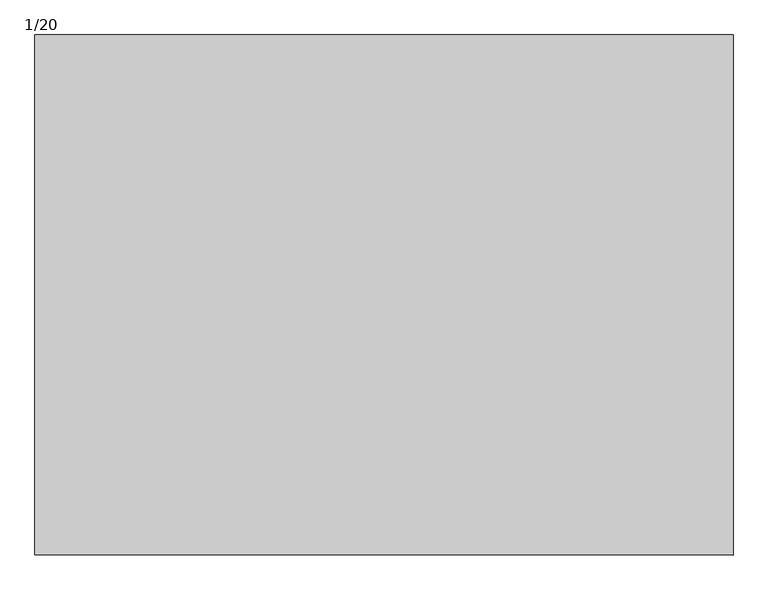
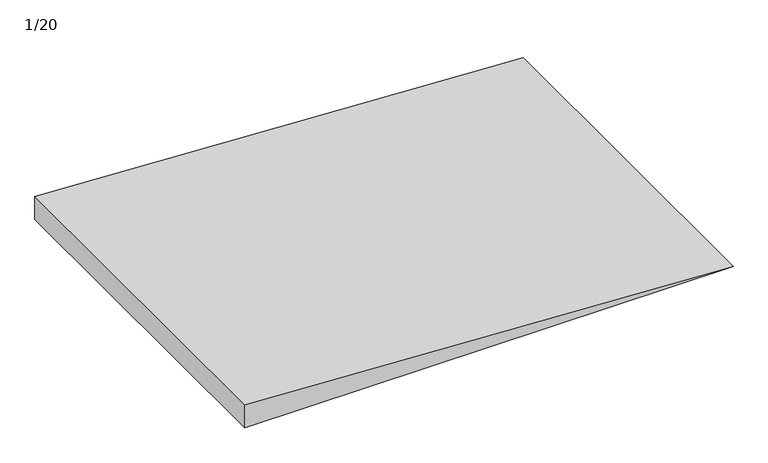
"""IFC4 building model written with IfcOpenShell, lengths in millimetres: ramp geometry, 1/20."""

import ifcopenshell
import ifcopenshell.guid

model = None  # the IFC model being written
_history = None  # IfcOwnerHistory: only IFC2X3 demands one
_inside = {}  # id of a spatial element -> (the spatial element, [elements in it])
_under = {}  # id of a project, library or spatial element -> (it, [spatial elements below it])
_declared = {}  # id of a project -> (the project, [libraries it declares])
_typed = {}  # id of a type object -> (the type object, [elements of that type])
_made_of = {}  # id of a material, layer set ... -> (it, [elements and type objects made of it])


def new_model(schema):
    """Start an empty IFC model of exactly this schema.

    Asked for "IFC4X3", IfcOpenShell would pick the latest addendum, in which some entities
    have other attributes; the version numbers below select the first issue.
    IFC2X3 requires an IfcOwnerHistory on every rooted entity: one is made here for all.
    """
    global model, _history
    if schema == "IFC4X3":
        model = ifcopenshell.file(schema_version=(4, 3, 0, 0))
    else:
        model = ifcopenshell.file(schema=schema)
    _inside.clear()
    _under.clear()
    _declared.clear()
    _typed.clear()
    _made_of.clear()
    _history = None
    if model.schema == "IFC2X3":
        org = make("IfcOrganization", Name="unknown")
        user = make(
            "IfcPersonAndOrganization",
            ThePerson=make("IfcPerson", FamilyName="unknown"),
            TheOrganization=org,
        )
        app = make(
            "IfcApplication",
            ApplicationDeveloper=org,
            Version="unknown",
            ApplicationFullName="unknown",
            ApplicationIdentifier="unknown",
        )
        _history = make(
            "IfcOwnerHistory",
            OwningUser=user,
            OwningApplication=app,
            ChangeAction="ADDED",
            CreationDate=0,
        )
    return model


def make(cls, **values):
    """One entity of the class cls with the attributes given. An attribute that is None is left unset."""
    return model.create_entity(
        cls, **{name: value for name, value in values.items() if value is not None}
    )


def rooted(cls, **values):
    """An entity with a GlobalId (a new one), such as an element, a storey or a relation."""
    return make(cls, GlobalId=ifcopenshell.guid.new(), OwnerHistory=_history, **values)


def si_unit(unit_type, name, prefix=None):
    """IfcSIUnit, for example si_unit("LENGTHUNIT", "METRE", prefix="MILLI")."""
    return make("IfcSIUnit", UnitType=unit_type, Prefix=prefix, Name=name)


def assignment(units):
    """IfcUnitAssignment: the units of a project."""
    return None if units is None else make("IfcUnitAssignment", Units=units)


def point(xyz):
    """IfcCartesianPoint."""
    return None if xyz is None else make("IfcCartesianPoint", Coordinates=xyz)


def direction(xyz):
    """IfcDirection."""
    return None if xyz is None else make("IfcDirection", DirectionRatios=xyz)


def frame(location, z_axis=None, x_axis=None):
    """IfcAxis2Placement3D, a coordinate frame: its origin and axes. An axis left out is left unset."""
    return make(
        "IfcAxis2Placement3D",
        Location=point(location),
        Axis=direction(z_axis),
        RefDirection=direction(x_axis),
    )


def origin():
    """The frame at (0, 0, 0) with its axes left unset."""
    return frame((0.0, 0.0, 0.0))


def place(relative_to, where):
    """IfcLocalPlacement: puts the frame where relative to a parent placement (None: the world)."""
    return make(
        "IfcLocalPlacement", PlacementRelTo=relative_to, RelativePlacement=where
    )


def context(
    kind, dimensions, precision=None, world=None, true_north=None, identifier=None
):
    """IfcGeometricRepresentationContext, for example the 3D "Model" context."""
    return make(
        "IfcGeometricRepresentationContext",
        ContextIdentifier=identifier,
        ContextType=kind,
        CoordinateSpaceDimension=dimensions,
        Precision=precision,
        WorldCoordinateSystem=world,
        TrueNorth=true_north,
    )


def project(units=None, contexts=None):
    """IfcProject with its units and contexts."""
    return rooted(
        "IfcProject",
        Name="project",
        RepresentationContexts=contexts,
        UnitsInContext=assignment(units),
    )


def spatial(cls, under=None, at=None, **own):
    """A site, building, storey or space (cls), placed at a placement, below another one or the project."""
    s = rooted(cls, ObjectPlacement=at, **own)
    if under is not None:
        _under.setdefault(under.id(), (under, []))[1].append(s)
    return s


def polyline(points):
    """IfcPolyline through the points."""
    return make("IfcPolyline", Points=[point(p) for p in points])


def outline(outer, holes=None, kind="AREA"):
    """IfcArbitraryClosedProfileDef: a profile drawn as a closed curve; with holes, ...WithVoids."""
    if holes is None:
        return make("IfcArbitraryClosedProfileDef", ProfileType=kind, OuterCurve=outer)
    return make(
        "IfcArbitraryProfileDefWithVoids",
        ProfileType=kind,
        OuterCurve=outer,
        InnerCurves=holes,
    )


def extrude(swept, where, along, depth):
    """IfcExtrudedAreaSolid: the profile swept, set in the frame where, extruded along a direction by depth."""
    return make(
        "IfcExtrudedAreaSolid",
        SweptArea=swept,
        Position=where,
        ExtrudedDirection=direction(along),
        Depth=depth,
    )


def shape(context_of_items, identifier, shape_type, items):
    """IfcShapeRepresentation: the items that make up one representation, for example the "Body"."""
    return make(
        "IfcShapeRepresentation",
        ContextOfItems=context_of_items,
        RepresentationIdentifier=identifier,
        RepresentationType=shape_type,
        Items=items,
    )


def source(mapping_origin, context_of_items, identifier, shape_type, items):
    """IfcRepresentationMap: a shape defined once, which mapped items show again and again."""
    return make(
        "IfcRepresentationMap",
        MappingOrigin=mapping_origin,
        MappedRepresentation=shape(context_of_items, identifier, shape_type, items),
    )


def transform(
    local_origin,
    x_axis=None,
    y_axis=None,
    z_axis=None,
    scale=None,
    scale2=None,
    scale3=None,
    uniform=True,
):
    """IfcCartesianTransformationOperator3D, or its non-uniform kind. x_axis, y_axis, z_axis: its Axis1, 2, 3."""
    if uniform:
        return make(
            "IfcCartesianTransformationOperator3D",
            Axis1=direction(x_axis),
            Axis2=direction(y_axis),
            LocalOrigin=point(local_origin),
            Scale=scale,
            Axis3=direction(z_axis),
        )
    return make(
        "IfcCartesianTransformationOperator3DnonUniform",
        Axis1=direction(x_axis),
        Axis2=direction(y_axis),
        LocalOrigin=point(local_origin),
        Scale=scale,
        Axis3=direction(z_axis),
        Scale2=scale2,
        Scale3=scale3,
    )


def mapped(mapping_source, mapping_target):
    """IfcMappedItem: shows the shape of a source again, moved by a transform."""
    return make(
        "IfcMappedItem", MappingSource=mapping_source, MappingTarget=mapping_target
    )


def made_of(thing, what):
    """Note that an element or type object is made of a material, layer set ...; save() writes the relation."""
    if what is not None:
        _made_of.setdefault(what.id(), (what, []))[1].append(thing)
    return thing


def element(
    cls,
    number,
    at=None,
    inside=None,
    cuts=None,
    type_object=None,
    material=None,
    context=None,
    identifier="Body",
    shape_type=None,
    held_by="IfcProductDefinitionShape",
    body=None,
    shapes=None,
    **own,
):
    """One element of the class cls, such as IfcWall. Its Tag is "e" and its number.

    at: its placement. inside: the storey or other place that contains it. cuts: it is an
    opening in that element (IfcRelVoidsElement). A single representation is given by context,
    identifier, shape_type and body (its items); several are given by shapes. held_by: the class
    of the entity that holds the representations. save() writes the other relations.
    """
    e = rooted(cls, Tag="e%d" % number, ObjectPlacement=at, **own)
    if body is not None:
        shapes = [shape(context, identifier, shape_type, body)]
    if shapes is not None:
        e.Representation = make(held_by, Representations=shapes)
    if inside is not None:
        _inside.setdefault(inside.id(), (inside, []))[1].append(e)
    if cuts is not None:
        rooted(
            "IfcRelVoidsElement", RelatingBuildingElement=cuts, RelatedOpeningElement=e
        )
    if type_object is not None:
        _typed.setdefault(type_object.id(), (type_object, []))[1].append(e)
    return made_of(e, material)


def aggregate(whole, parts):
    """IfcRelAggregates: a whole, such as a stair, and the parts it consists of."""
    return rooted("IfcRelAggregates", RelatingObject=whole, RelatedObjects=parts)


def save(model, path):
    """Write the relations noted so far, then the file.

    IfcRelAggregates (storeys below a building ...), IfcRelContainedInSpatialStructure (elements
    in a storey), IfcRelDefinesByType, IfcRelAssociatesMaterial and IfcRelDeclares: one each for
    every whole, place, type object, material and project.
    """
    for whole, parts in _under.values():
        aggregate(whole, parts)
    for where, things in _inside.values():
        rooted(
            "IfcRelContainedInSpatialStructure",
            RelatedElements=things,
            RelatingStructure=where,
        )
    for kind, things in _typed.values():
        rooted("IfcRelDefinesByType", RelatedObjects=things, RelatingType=kind)
    for what, things in _made_of.values():
        rooted("IfcRelAssociatesMaterial", RelatedObjects=things, RelatingMaterial=what)
    for by, libraries in _declared.values():
        rooted("IfcRelDeclares", RelatingContext=by, RelatedDefinitions=libraries)
    model.write(path)


def ramp_1_20_a26907a8(model_context):
    return source(origin(), model_context, "Body", "SweptSolid", [
        extrude(outline(polyline([(-300.0, 4930.0), (-189.25, 2715.0), (-300.0, 2715.0), (-300.0, 4930.0)])), frame((0.0, 26425.0, 0.0), z_axis=(0.0, 1.0, 0.0), x_axis=(0.0, 0.0, 1.0)), (0.0, 0.0, 1.0), 1650.0),
    ])


if __name__ == "__main__":
    model = new_model("IFC4")
    model_context = context("Model", 3, world=origin())
    ifc_project = project(units=[si_unit("LENGTHUNIT", "METRE", prefix="MILLI")], contexts=[model_context])
    site = spatial("IfcSite", under=ifc_project)
    building = spatial("IfcBuilding", under=site)
    placement = place(None, origin())
    ramp_1_20_shape = ramp_1_20_a26907a8(model_context)
    element("IfcRamp", 1, ObjectType="1/20", at=placement, inside=building, context=model_context, shape_type="MappedRepresentation", body=[
        mapped(ramp_1_20_shape, transform((0.0, 0.0, 0.0), x_axis=(1.0, 0.0, 0.0), y_axis=(0.0, 1.0, 0.0), z_axis=(0.0, 0.0, 1.0))),
    ])
    save(model, "model.ifc")
